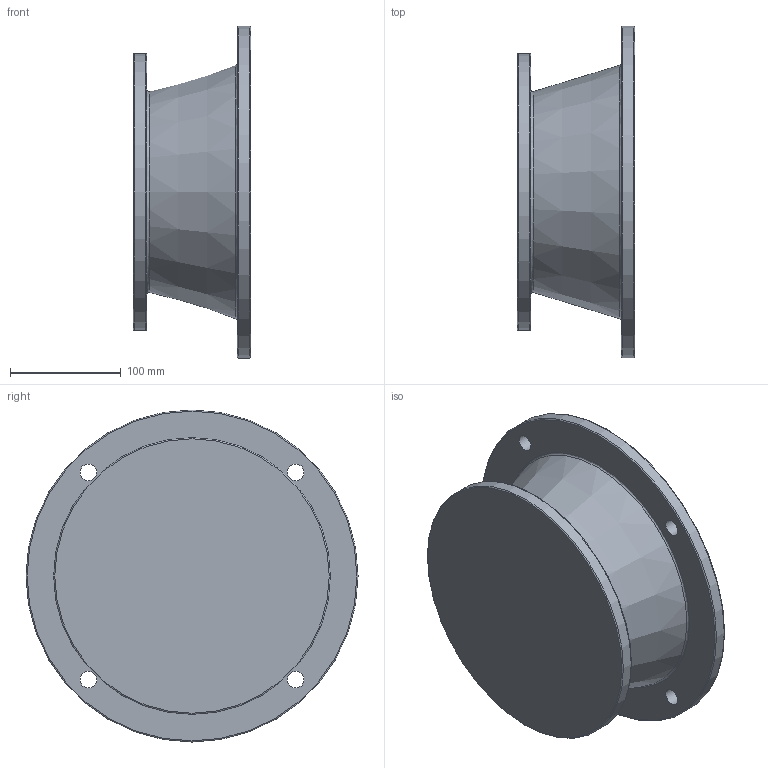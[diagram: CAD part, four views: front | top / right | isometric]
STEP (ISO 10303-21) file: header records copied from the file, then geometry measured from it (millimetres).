
FILE_DESCRIPTION((''),'2;1');
FILE_NAME('D:\PAWEŁ\ZLECENIA\2011 DualSystem\Przekładnie DR\DR80\STEP\132_B5_L106.stp','2012-06-11T12:17:10',('admin'),(''),'Autodesk Inventor 2009','Autodesk Inventor 2009','');
FILE_SCHEMA(('AUTOMOTIVE_DESIGN { 1 0 10303 214 1 1 1 1 }'));
Length unit declared in the file: millimetre
Products named in the file (1): 132_B5_L106
Bounding box: 106 x 300 x 300 mm (x, y, z)
Volume: 1443198.7 mm3; surface area: 317172.5 mm2
Topology: 1 solids, 1 shells, 30 faces, 58 edges, 36 vertices
Faces by surface type: plane 11, cylinder 6, bspline 6, torus 5, cone 2
Full cylindrical faces by diameter (mm): 62 x1, 217.455 x1, 230 x1, 250 x1, 300 x1
Entity records: 895 total; most frequent: CARTESIAN_POINT 281, DIRECTION 120, ORIENTED_EDGE 80, EDGE_LOOP 62, AXIS2_PLACEMENT_3D 55, EDGE_CURVE 40, VERTEX_POINT 36, FACE_BOUND 32
